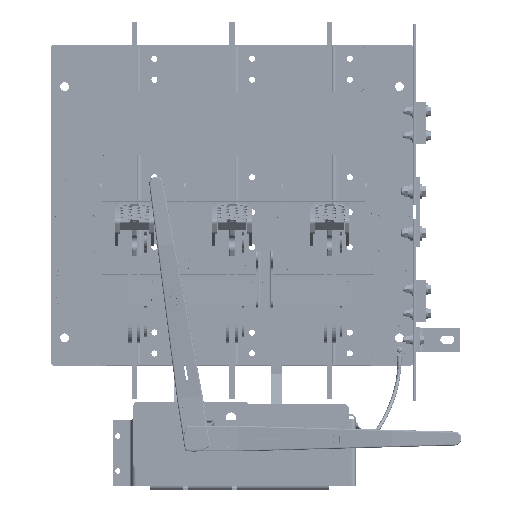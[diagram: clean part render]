
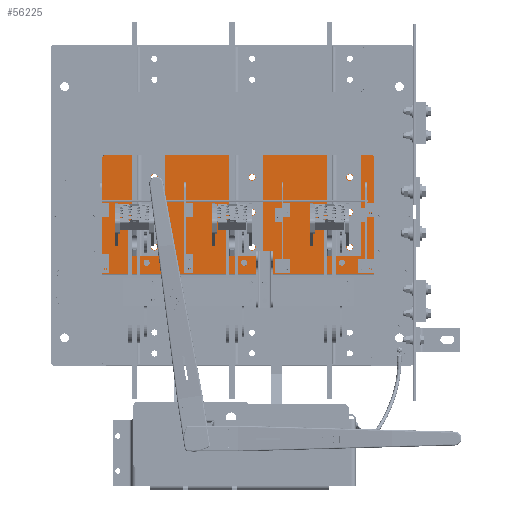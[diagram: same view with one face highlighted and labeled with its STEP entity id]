
A CAD part, top view. The second image highlights one B-rep face of the part: STEP entity #56225.
In plain terms, the highlighted planar face has unit normal (0, 0, 1).
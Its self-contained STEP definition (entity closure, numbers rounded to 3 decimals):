
#2521=FACE_BOUND('',#9063,.T.);
#2522=FACE_BOUND('',#9064,.T.);
#2523=FACE_BOUND('',#9065,.T.);
#2524=FACE_BOUND('',#9066,.T.);
#2525=FACE_BOUND('',#9067,.T.);
#2526=FACE_BOUND('',#9068,.T.);
#2527=FACE_BOUND('',#9069,.T.);
#2528=FACE_BOUND('',#9070,.T.);
#2529=FACE_BOUND('',#9071,.T.);
#2530=FACE_BOUND('',#9072,.T.);
#2531=FACE_BOUND('',#9073,.T.);
#2532=FACE_BOUND('',#9074,.T.);
#2533=FACE_BOUND('',#9075,.T.);
#2534=FACE_BOUND('',#9076,.T.);
#2535=FACE_BOUND('',#9077,.T.);
#2536=FACE_BOUND('',#9078,.T.);
#2537=FACE_BOUND('',#9079,.T.);
#3741=PLANE('',#61399);
#5768=FACE_OUTER_BOUND('',#9062,.T.);
#9062=EDGE_LOOP('',(#42750,#42751,#42752,#42753,#42754,#42755));
#9063=EDGE_LOOP('',(#42756));
#9064=EDGE_LOOP('',(#42757));
#9065=EDGE_LOOP('',(#42758));
#9066=EDGE_LOOP('',(#42759));
#9067=EDGE_LOOP('',(#42760));
#9068=EDGE_LOOP('',(#42761));
#9069=EDGE_LOOP('',(#42762));
#9070=EDGE_LOOP('',(#42763));
#9071=EDGE_LOOP('',(#42764));
#9072=EDGE_LOOP('',(#42765));
#9073=EDGE_LOOP('',(#42766));
#9074=EDGE_LOOP('',(#42767));
#9075=EDGE_LOOP('',(#42768));
#9076=EDGE_LOOP('',(#42769));
#9077=EDGE_LOOP('',(#42770));
#9078=EDGE_LOOP('',(#42771));
#9079=EDGE_LOOP('',(#42772));
#12853=CIRCLE('',#61182,0.07);
#12855=CIRCLE('',#61186,0.07);
#12857=CIRCLE('',#61190,0.07);
#12859=CIRCLE('',#61194,0.07);
#12861=CIRCLE('',#61198,0.07);
#12863=CIRCLE('',#61202,0.07);
#12865=CIRCLE('',#61206,0.07);
#12867=CIRCLE('',#61210,0.07);
#12871=CIRCLE('',#61218,0.219);
#12872=CIRCLE('',#61220,0.219);
#12873=CIRCLE('',#61222,0.219);
#12874=CIRCLE('',#61224,0.219);
#12875=CIRCLE('',#61226,0.219);
#12876=CIRCLE('',#61228,0.219);
#12877=CIRCLE('',#61230,0.219);
#12878=CIRCLE('',#61232,0.219);
#12879=CIRCLE('',#61234,0.219);
#12958=CIRCLE('',#61393,0.237);
#12959=CIRCLE('',#61398,0.237);
#15973=LINE('',#86847,#20731);
#15977=LINE('',#86856,#20735);
#15979=LINE('',#86860,#20737);
#15981=LINE('',#86864,#20739);
#20731=VECTOR('',#70492,0.394);
#20735=VECTOR('',#70502,0.394);
#20737=VECTOR('',#70506,0.394);
#20739=VECTOR('',#70510,0.394);
#25683=VERTEX_POINT('',#86388);
#25685=VERTEX_POINT('',#86395);
#25687=VERTEX_POINT('',#86402);
#25689=VERTEX_POINT('',#86409);
#25691=VERTEX_POINT('',#86416);
#25693=VERTEX_POINT('',#86423);
#25695=VERTEX_POINT('',#86430);
#25697=VERTEX_POINT('',#86437);
#25701=VERTEX_POINT('',#86451);
#25702=VERTEX_POINT('',#86455);
#25703=VERTEX_POINT('',#86459);
#25704=VERTEX_POINT('',#86463);
#25705=VERTEX_POINT('',#86467);
#25706=VERTEX_POINT('',#86471);
#25707=VERTEX_POINT('',#86475);
#25708=VERTEX_POINT('',#86479);
#25709=VERTEX_POINT('',#86483);
#25821=VERTEX_POINT('',#86845);
#25822=VERTEX_POINT('',#86846);
#25823=VERTEX_POINT('',#86851);
#25824=VERTEX_POINT('',#86855);
#25825=VERTEX_POINT('',#86859);
#25826=VERTEX_POINT('',#86863);
#31847=EDGE_CURVE('',#25683,#25683,#12853,.T.);
#31850=EDGE_CURVE('',#25685,#25685,#12855,.T.);
#31853=EDGE_CURVE('',#25687,#25687,#12857,.T.);
#31856=EDGE_CURVE('',#25689,#25689,#12859,.T.);
#31859=EDGE_CURVE('',#25691,#25691,#12861,.T.);
#31862=EDGE_CURVE('',#25693,#25693,#12863,.T.);
#31865=EDGE_CURVE('',#25695,#25695,#12865,.T.);
#31868=EDGE_CURVE('',#25697,#25697,#12867,.T.);
#31874=EDGE_CURVE('',#25701,#25701,#12871,.T.);
#31876=EDGE_CURVE('',#25702,#25702,#12872,.T.);
#31878=EDGE_CURVE('',#25703,#25703,#12873,.T.);
#31880=EDGE_CURVE('',#25704,#25704,#12874,.T.);
#31882=EDGE_CURVE('',#25705,#25705,#12875,.T.);
#31884=EDGE_CURVE('',#25706,#25706,#12876,.T.);
#31886=EDGE_CURVE('',#25707,#25707,#12877,.T.);
#31888=EDGE_CURVE('',#25708,#25708,#12878,.T.);
#31890=EDGE_CURVE('',#25709,#25709,#12879,.T.);
#32061=EDGE_CURVE('',#25821,#25822,#15973,.T.);
#32064=EDGE_CURVE('',#25822,#25823,#12958,.T.);
#32066=EDGE_CURVE('',#25823,#25824,#15977,.T.);
#32068=EDGE_CURVE('',#25824,#25825,#15979,.T.);
#32070=EDGE_CURVE('',#25825,#25826,#15981,.T.);
#32072=EDGE_CURVE('',#25826,#25821,#12959,.T.);
#42750=ORIENTED_EDGE('',*,*,#32061,.F.);
#42751=ORIENTED_EDGE('',*,*,#32072,.F.);
#42752=ORIENTED_EDGE('',*,*,#32070,.F.);
#42753=ORIENTED_EDGE('',*,*,#32068,.F.);
#42754=ORIENTED_EDGE('',*,*,#32066,.F.);
#42755=ORIENTED_EDGE('',*,*,#32064,.F.);
#42756=ORIENTED_EDGE('',*,*,#31847,.T.);
#42757=ORIENTED_EDGE('',*,*,#31850,.T.);
#42758=ORIENTED_EDGE('',*,*,#31853,.T.);
#42759=ORIENTED_EDGE('',*,*,#31856,.T.);
#42760=ORIENTED_EDGE('',*,*,#31859,.T.);
#42761=ORIENTED_EDGE('',*,*,#31862,.T.);
#42762=ORIENTED_EDGE('',*,*,#31865,.T.);
#42763=ORIENTED_EDGE('',*,*,#31868,.T.);
#42764=ORIENTED_EDGE('',*,*,#31874,.T.);
#42765=ORIENTED_EDGE('',*,*,#31876,.T.);
#42766=ORIENTED_EDGE('',*,*,#31878,.T.);
#42767=ORIENTED_EDGE('',*,*,#31880,.T.);
#42768=ORIENTED_EDGE('',*,*,#31882,.T.);
#42769=ORIENTED_EDGE('',*,*,#31884,.T.);
#42770=ORIENTED_EDGE('',*,*,#31886,.T.);
#42771=ORIENTED_EDGE('',*,*,#31888,.T.);
#42772=ORIENTED_EDGE('',*,*,#31890,.T.);
#56225=ADVANCED_FACE('',(#5768,#2521,#2522,#2523,#2524,#2525,#2526,#2527,
#2528,#2529,#2530,#2531,#2532,#2533,#2534,#2535,#2536,#2537),#3741,.T.);
#61182=AXIS2_PLACEMENT_3D('',#86389,#69963,#69964);
#61186=AXIS2_PLACEMENT_3D('',#86396,#69972,#69973);
#61190=AXIS2_PLACEMENT_3D('',#86403,#69981,#69982);
#61194=AXIS2_PLACEMENT_3D('',#86410,#69990,#69991);
#61198=AXIS2_PLACEMENT_3D('',#86417,#69999,#70000);
#61202=AXIS2_PLACEMENT_3D('',#86424,#70008,#70009);
#61206=AXIS2_PLACEMENT_3D('',#86431,#70017,#70018);
#61210=AXIS2_PLACEMENT_3D('',#86438,#70026,#70027);
#61218=AXIS2_PLACEMENT_3D('',#86452,#70044,#70045);
#61220=AXIS2_PLACEMENT_3D('',#86456,#70049,#70050);
#61222=AXIS2_PLACEMENT_3D('',#86460,#70054,#70055);
#61224=AXIS2_PLACEMENT_3D('',#86464,#70059,#70060);
#61226=AXIS2_PLACEMENT_3D('',#86468,#70064,#70065);
#61228=AXIS2_PLACEMENT_3D('',#86472,#70069,#70070);
#61230=AXIS2_PLACEMENT_3D('',#86476,#70074,#70075);
#61232=AXIS2_PLACEMENT_3D('',#86480,#70079,#70080);
#61234=AXIS2_PLACEMENT_3D('',#86484,#70084,#70085);
#61393=AXIS2_PLACEMENT_3D('',#86852,#70497,#70498);
#61398=AXIS2_PLACEMENT_3D('',#86867,#70514,#70515);
#61399=AXIS2_PLACEMENT_3D('',#86868,#70516,#70517);
#69963=DIRECTION('center_axis',(0.,0.,-1.));
#69964=DIRECTION('ref_axis',(-1.,0.,0.));
#69972=DIRECTION('center_axis',(0.,0.,-1.));
#69973=DIRECTION('ref_axis',(-1.,0.,0.));
#69981=DIRECTION('center_axis',(0.,0.,-1.));
#69982=DIRECTION('ref_axis',(-1.,0.,0.));
#69990=DIRECTION('center_axis',(0.,0.,-1.));
#69991=DIRECTION('ref_axis',(-1.,0.,0.));
#69999=DIRECTION('center_axis',(0.,0.,-1.));
#70000=DIRECTION('ref_axis',(-1.,0.,0.));
#70008=DIRECTION('center_axis',(0.,0.,-1.));
#70009=DIRECTION('ref_axis',(-1.,0.,0.));
#70017=DIRECTION('center_axis',(0.,0.,-1.));
#70018=DIRECTION('ref_axis',(-1.,0.,0.));
#70026=DIRECTION('center_axis',(0.,0.,-1.));
#70027=DIRECTION('ref_axis',(-1.,0.,0.));
#70044=DIRECTION('center_axis',(0.,0.,-1.));
#70045=DIRECTION('ref_axis',(-1.,0.,0.));
#70049=DIRECTION('center_axis',(0.,0.,-1.));
#70050=DIRECTION('ref_axis',(-1.,0.,0.));
#70054=DIRECTION('center_axis',(0.,0.,-1.));
#70055=DIRECTION('ref_axis',(-1.,0.,0.));
#70059=DIRECTION('center_axis',(0.,0.,-1.));
#70060=DIRECTION('ref_axis',(-1.,0.,0.));
#70064=DIRECTION('center_axis',(0.,0.,-1.));
#70065=DIRECTION('ref_axis',(-1.,0.,0.));
#70069=DIRECTION('center_axis',(0.,0.,-1.));
#70070=DIRECTION('ref_axis',(-1.,0.,0.));
#70074=DIRECTION('center_axis',(0.,0.,-1.));
#70075=DIRECTION('ref_axis',(-1.,0.,0.));
#70079=DIRECTION('center_axis',(0.,0.,-1.));
#70080=DIRECTION('ref_axis',(-1.,0.,0.));
#70084=DIRECTION('center_axis',(0.,0.,-1.));
#70085=DIRECTION('ref_axis',(-1.,0.,0.));
#70492=DIRECTION('',(1.,0.,0.));
#70497=DIRECTION('center_axis',(0.,0.,-1.));
#70498=DIRECTION('ref_axis',(-1.,0.,0.));
#70502=DIRECTION('',(0.,-1.,0.));
#70506=DIRECTION('',(-1.,0.,0.));
#70510=DIRECTION('',(0.,1.,0.));
#70514=DIRECTION('center_axis',(0.,0.,-1.));
#70515=DIRECTION('ref_axis',(0.,-1.,0.));
#70516=DIRECTION('center_axis',(0.,0.,1.));
#70517=DIRECTION('ref_axis',(1.,0.,0.));
#86388=CARTESIAN_POINT('',(38.758,-12.063,0.5));
#86389=CARTESIAN_POINT('Origin',(38.688,-12.063,0.5));
#86395=CARTESIAN_POINT('',(45.758,-12.063,0.5));
#86396=CARTESIAN_POINT('Origin',(45.688,-12.063,0.5));
#86402=CARTESIAN_POINT('',(51.758,-12.063,0.5));
#86403=CARTESIAN_POINT('Origin',(51.688,-12.063,0.5));
#86409=CARTESIAN_POINT('',(51.758,-16.063,0.5));
#86410=CARTESIAN_POINT('Origin',(51.688,-16.063,0.5));
#86416=CARTESIAN_POINT('',(45.758,-16.063,0.5));
#86417=CARTESIAN_POINT('Origin',(45.688,-16.063,0.5));
#86423=CARTESIAN_POINT('',(38.758,-16.063,0.5));
#86424=CARTESIAN_POINT('Origin',(38.688,-16.063,0.5));
#86430=CARTESIAN_POINT('',(32.758,-16.063,0.5));
#86431=CARTESIAN_POINT('Origin',(32.688,-16.063,0.5));
#86437=CARTESIAN_POINT('',(32.758,-12.063,0.5));
#86438=CARTESIAN_POINT('Origin',(32.688,-12.063,0.5));
#86451=CARTESIAN_POINT('',(50.406,-9.5,0.5));
#86452=CARTESIAN_POINT('Origin',(50.188,-9.5,0.5));
#86455=CARTESIAN_POINT('',(50.406,-12.,0.5));
#86456=CARTESIAN_POINT('Origin',(50.188,-12.,0.5));
#86459=CARTESIAN_POINT('',(50.406,-14.5,0.5));
#86460=CARTESIAN_POINT('Origin',(50.188,-14.5,0.5));
#86463=CARTESIAN_POINT('',(43.406,-9.5,0.5));
#86464=CARTESIAN_POINT('Origin',(43.188,-9.5,0.5));
#86467=CARTESIAN_POINT('',(43.406,-12.,0.5));
#86468=CARTESIAN_POINT('Origin',(43.188,-12.,0.5));
#86471=CARTESIAN_POINT('',(43.406,-14.5,0.5));
#86472=CARTESIAN_POINT('Origin',(43.188,-14.5,0.5));
#86475=CARTESIAN_POINT('',(36.406,-14.5,0.5));
#86476=CARTESIAN_POINT('Origin',(36.188,-14.5,0.5));
#86479=CARTESIAN_POINT('',(36.406,-12.,0.5));
#86480=CARTESIAN_POINT('Origin',(36.188,-12.,0.5));
#86483=CARTESIAN_POINT('',(36.406,-9.5,0.5));
#86484=CARTESIAN_POINT('Origin',(36.188,-9.5,0.5));
#86845=CARTESIAN_POINT('',(32.688,-7.888,0.5));
#86846=CARTESIAN_POINT('',(51.688,-7.888,0.5));
#86847=CARTESIAN_POINT('',(32.688,-7.888,0.5));
#86851=CARTESIAN_POINT('',(51.924,-8.125,0.5));
#86852=CARTESIAN_POINT('Origin',(51.688,-8.125,0.5));
#86855=CARTESIAN_POINT('',(51.924,-16.461,0.5));
#86856=CARTESIAN_POINT('',(51.924,-8.125,0.5));
#86859=CARTESIAN_POINT('',(32.451,-16.461,0.5));
#86860=CARTESIAN_POINT('',(51.938,-16.461,0.5));
#86863=CARTESIAN_POINT('',(32.451,-8.125,0.5));
#86864=CARTESIAN_POINT('',(32.451,-16.474,0.5));
#86867=CARTESIAN_POINT('Origin',(32.688,-8.125,0.5));
#86868=CARTESIAN_POINT('Origin',(42.188,-12.191,0.5));
